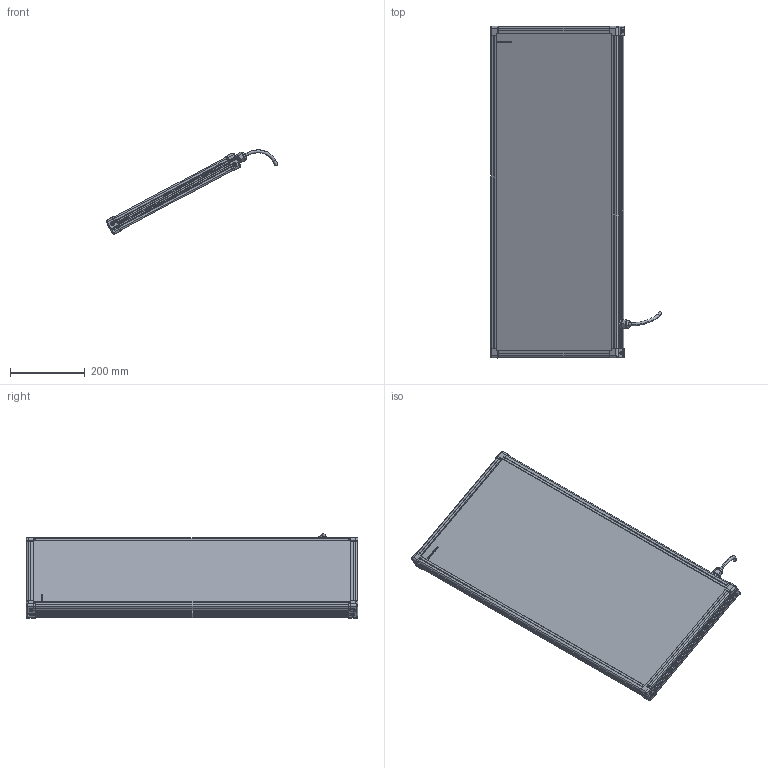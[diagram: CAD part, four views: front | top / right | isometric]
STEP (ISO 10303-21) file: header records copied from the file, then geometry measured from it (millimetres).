
FILE_DESCRIPTION (( 'STEP AP214' ), '1' );
FILE_NAME ('EFFI-BL-350-850-ZZZ.STEP', '2021-06-10T09:02:32', ( '' ), ( '' ), 'SwSTEP 2.0', 'SolidWorks 2021', '' );
FILE_SCHEMA (( 'AUTOMOTIVE_DESIGN' ));
Length unit declared in the file: millimetre
Products named in the file (9): Pièce13^EFFI-BL-XXX-YYY-ZZZ (1 connecteur) M12POWER; EFFI-BL-350-850-ZZZ; 000629; profile Y_PERCE; M12 power_AVEC CABLE D8.1; petite joue; profile X_PERCE; petite joue + vis
Assembly tree (13 placements, depth 3):
  EFFI-BL-350-850-ZZZ
    profile X_PERCE  x2
    profile Y_PERCE
    profile Y_PERCE
    Pièce13^EFFI-BL-XXX-YYY-ZZZ (1 connecteur) M12POWER
    petite joue + vis  x4
      petite joue
      000629
    M12 power_AVEC CABLE D8.1
Bounding box: 459 x 889 x 226.16 mm (x, y, z)
Volume: 12023652.3 mm3; surface area: 1063489.8 mm2
Topology: 17 solids, 20 shells, 3578 faces, 9609 edges, 6361 vertices
Faces by surface type: plane 2380, bspline 591, cylinder 583, cone 20, torus 4
Entity records: 49711 total; most frequent: CARTESIAN_POINT 21554, ORIENTED_EDGE 6036, DIRECTION 4529, EDGE_CURVE 3020, VECTOR 2261, LINE 2261, VERTEX_POINT 2008, EDGE_LOOP 1222
